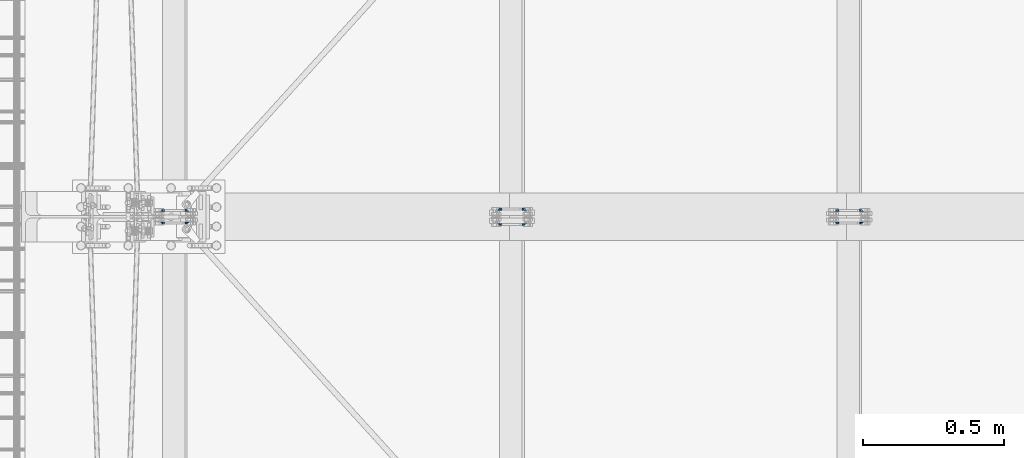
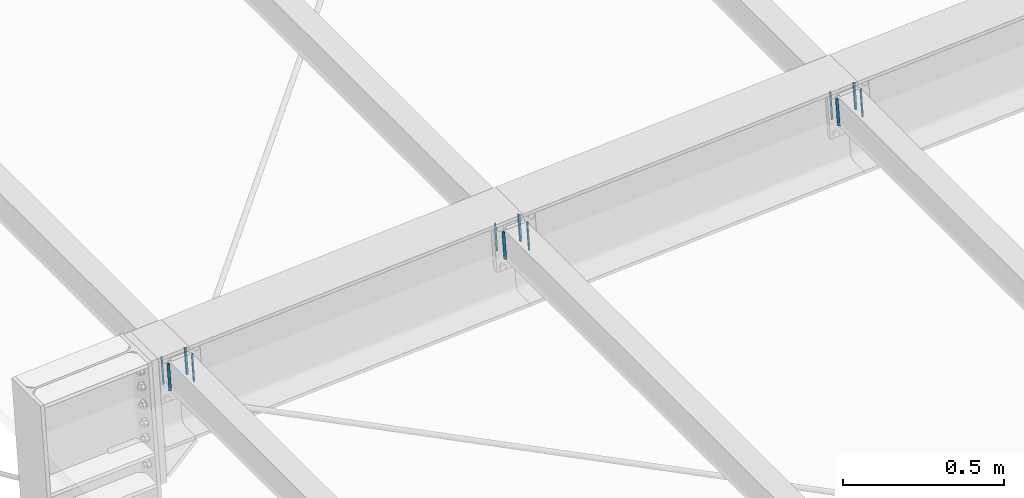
# One storey, part 14 of 72: 24 fasteners.
"""IFC4 building model written with IfcOpenShell, lengths in metres."""

from ifc_helpers import new_model, si_unit, frame, origin_with_axes, place, context, project, spatial, polyline, outline, extrude, type_object, element, save


model = new_model("IFC4")

# Units and contexts
model_context = context("Model", 3, precision=1e-05, world=origin_with_axes())
ifc_project = project(units=[si_unit("LENGTHUNIT", "METRE"), si_unit("AREAUNIT", "SQUARE_METRE"), si_unit("VOLUMEUNIT", "CUBIC_METRE"), si_unit("MASSUNIT", "GRAM", prefix="KILO"), si_unit("TIMEUNIT", "SECOND"), si_unit("PLANEANGLEUNIT", "RADIAN"), si_unit("SOLIDANGLEUNIT", "STERADIAN"), si_unit("THERMODYNAMICTEMPERATUREUNIT", "DEGREE_CELSIUS")], contexts=[model_context])

# Site, building, storey
placement_1 = place(None, origin_with_axes())
site = spatial("IfcSite", under=ifc_project, at=placement_1, Name="Italia", CompositionType="ELEMENT")
building = spatial("IfcBuilding", under=site, at=placement_1, Name="Pensilina", CompositionType="ELEMENT")
storey = spatial("IfcBuildingStorey", under=building, at=placement_1, Name="Storey 0", CompositionType="ELEMENT", Elevation=0.0)

# Fasteners
fastener_type_1 = type_object("IfcFastenerType", Name="Collegamento 0202_0201", PredefinedType="WELD")
placement_2 = place(placement_1, origin_with_axes())
fastener_1_placement = place(placement_2, origin_with_axes())
element("IfcFastener", 1, at=fastener_1_placement, inside=storey, type_object=fastener_type_1, Name="Collegamento 0202_0201", context=model_context, shape_type="SweptSolid", body=[
    extrude(outline(polyline([(0.0, 0.0, 0.0), (-0.00717354, 0.00695825, 0.0), (0.0, 0.00695825, 0.0), (0.0, 0.0, 0.0)])), frame((0.970676, 5.26105, 3.74635), z_axis=(0.067317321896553, 0.0, -0.997731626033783), x_axis=(0.0, 1.0, 0.0)), (0.0, 0.0, 1.0), 0.1061),
])
fastener_type_2 = type_object("IfcFastenerType", Name="Collegamento 0202_0201", PredefinedType="WELD")
fastener_2_placement = place(placement_2, origin_with_axes())
element("IfcFastener", 2, at=fastener_2_placement, inside=storey, type_object=fastener_type_2, Name="Collegamento 0202_0201", context=model_context, shape_type="SweptSolid", body=[
    extrude(outline(polyline([(0.0, 0.0, 0.0), (0.00717354, -0.00695825, 0.0), (0.0, -0.00695825, 0.0), (0.0, 0.0, 0.0)])), frame((1.07142, 5.26105, 3.64681), z_axis=(-0.067317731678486, 0.0, 0.997731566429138), x_axis=(0.0, -1.0, 0.0)), (0.0, 0.0, 1.0), 0.1061),
])
fastener_type_3 = type_object("IfcFastenerType", Name="Collegamento 0202_0201", PredefinedType="WELD")
fastener_3_placement = place(placement_2, origin_with_axes())
element("IfcFastener", 3, at=fastener_3_placement, inside=storey, type_object=fastener_type_3, Name="Collegamento 0202_0201", context=model_context, shape_type="SweptSolid", body=[
    extrude(outline(polyline([(0.0, 0.0, 0.0), (-0.00717354, 0.00695825, 0.0), (0.0, 0.00695825, 0.0), (0.0, 0.0, 0.0)])), frame((0.970676, 5.26105, 3.74635), z_axis=(0.067317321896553, 0.0, -0.997731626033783), x_axis=(0.0, 1.0, 0.0)), (0.0, 0.0, 1.0), 0.1061),
])
fastener_type_4 = type_object("IfcFastenerType", Name="Collegamento 0202_0201", PredefinedType="WELD")
fastener_4_placement = place(placement_2, origin_with_axes())
element("IfcFastener", 4, at=fastener_4_placement, inside=storey, type_object=fastener_type_4, Name="Collegamento 0202_0201", context=model_context, shape_type="SweptSolid", body=[
    extrude(outline(polyline([(0.0, 0.0, 0.0), (0.00717354, -0.00695825, 0.0), (0.0, -0.00695825, 0.0), (0.0, 0.0, 0.0)])), frame((1.07142, 5.26105, 3.64681), z_axis=(-0.067317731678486, 0.0, 0.997731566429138), x_axis=(0.0, -1.0, 0.0)), (0.0, 0.0, 1.0), 0.1061),
])
fastener_type_5 = type_object("IfcFastenerType", Name="Collegamento 0202_0203", PredefinedType="WELD")
fastener_5_placement = place(placement_2, origin_with_axes())
element("IfcFastener", 5, at=fastener_5_placement, inside=storey, type_object=fastener_type_5, Name="Collegamento 0202_0203", context=model_context, shape_type="SweptSolid", body=[
    extrude(outline(polyline([(0.0, 0.0, 0.0), (-0.00717354, 0.00695825, 0.0), (0.0, 0.00695825, 0.0), (0.0, 0.0, 0.0)])), frame((0.977819, 5.29895, 3.64049), z_axis=(-0.067317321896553, 0.0, 0.997731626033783), x_axis=(0.0, -1.0, 0.0)), (0.0, 0.0, 1.0), 0.1061),
])
fastener_type_6 = type_object("IfcFastenerType", Name="Collegamento 0202_0203", PredefinedType="WELD")
fastener_6_placement = place(placement_2, origin_with_axes())
element("IfcFastener", 6, at=fastener_6_placement, inside=storey, type_object=fastener_type_6, Name="Collegamento 0202_0203", context=model_context, shape_type="SweptSolid", body=[
    extrude(outline(polyline([(0.0, 0.0, 0.0), (0.00717354, -0.00695825, 0.0), (0.0, -0.00695825, 0.0), (0.0, 0.0, 0.0)])), frame((1.06428, 5.29895, 3.75267), z_axis=(0.067317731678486, 0.0, -0.997731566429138), x_axis=(0.0, 1.0, 0.0)), (0.0, 0.0, 1.0), 0.1061),
])
fastener_type_7 = type_object("IfcFastenerType", Name="Collegamento 0202_0203", PredefinedType="WELD")
fastener_7_placement = place(placement_2, origin_with_axes())
element("IfcFastener", 7, at=fastener_7_placement, inside=storey, type_object=fastener_type_7, Name="Collegamento 0202_0203", context=model_context, shape_type="SweptSolid", body=[
    extrude(outline(polyline([(0.0, 0.0, 0.0), (-0.00717354, 0.00695825, 0.0), (0.0, 0.00695825, 0.0), (0.0, 0.0, 0.0)])), frame((0.977819, 5.29895, 3.64049), z_axis=(-0.067317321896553, 0.0, 0.997731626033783), x_axis=(0.0, -1.0, 0.0)), (0.0, 0.0, 1.0), 0.1061),
])
fastener_type_8 = type_object("IfcFastenerType", Name="Collegamento 0202_0203", PredefinedType="WELD")
fastener_8_placement = place(placement_2, origin_with_axes())
element("IfcFastener", 8, at=fastener_8_placement, inside=storey, type_object=fastener_type_8, Name="Collegamento 0202_0203", context=model_context, shape_type="SweptSolid", body=[
    extrude(outline(polyline([(0.0, 0.0, 0.0), (0.00717354, -0.00695825, 0.0), (0.0, -0.00695825, 0.0), (0.0, 0.0, 0.0)])), frame((1.06428, 5.29895, 3.75267), z_axis=(0.067317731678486, 0.0, -0.997731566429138), x_axis=(0.0, 1.0, 0.0)), (0.0, 0.0, 1.0), 0.1061),
])
fastener_type_9 = type_object("IfcFastenerType", Name="Collegamento 0302_0301", PredefinedType="WELD")
fastener_9_placement = place(placement_2, origin_with_axes())
element("IfcFastener", 9, at=fastener_9_placement, inside=storey, type_object=fastener_type_9, Name="Collegamento 0302_0301", context=model_context, shape_type="SweptSolid", body=[
    extrude(outline(polyline([(0.0, 0.0, 0.0), (-0.00717354, 0.00695825, 0.0), (0.0, 0.00695825, 0.0), (0.0, 0.0, 0.0)])), frame((2.1679, 5.25605, 3.8286), z_axis=(0.067318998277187, 0.0, -0.997731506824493), x_axis=(0.0, 1.0, 0.0)), (0.0, 0.0, 1.0), 0.1061),
])
fastener_type_10 = type_object("IfcFastenerType", Name="Collegamento 0302_0301", PredefinedType="WELD")
fastener_10_placement = place(placement_2, origin_with_axes())
element("IfcFastener", 10, at=fastener_10_placement, inside=storey, type_object=fastener_type_10, Name="Collegamento 0302_0301", context=model_context, shape_type="SweptSolid", body=[
    extrude(outline(polyline([(0.0, 0.0, 0.0), (0.00717354, -0.00695825, 0.0), (0.0, -0.00695825, 0.0), (0.0, 0.0, 0.0)])), frame((2.26864, 5.25605, 3.72906), z_axis=(-0.067318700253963, 0.0, 0.997731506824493), x_axis=(0.0, -1.0, 0.0)), (0.0, 0.0, 1.0), 0.1061),
])
fastener_type_11 = type_object("IfcFastenerType", Name="Collegamento 0302_0301", PredefinedType="WELD")
fastener_11_placement = place(placement_2, origin_with_axes())
element("IfcFastener", 11, at=fastener_11_placement, inside=storey, type_object=fastener_type_11, Name="Collegamento 0302_0301", context=model_context, shape_type="SweptSolid", body=[
    extrude(outline(polyline([(0.0, 0.0, 0.0), (-0.00717354, 0.00695825, 0.0), (0.0, 0.00695825, 0.0), (0.0, 0.0, 0.0)])), frame((2.1679, 5.25605, 3.8286), z_axis=(0.067318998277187, 0.0, -0.997731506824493), x_axis=(0.0, 1.0, 0.0)), (0.0, 0.0, 1.0), 0.1061),
])
fastener_type_12 = type_object("IfcFastenerType", Name="Collegamento 0302_0301", PredefinedType="WELD")
fastener_12_placement = place(placement_2, origin_with_axes())
element("IfcFastener", 12, at=fastener_12_placement, inside=storey, type_object=fastener_type_12, Name="Collegamento 0302_0301", context=model_context, shape_type="SweptSolid", body=[
    extrude(outline(polyline([(0.0, 0.0, 0.0), (0.00717354, -0.00695825, 0.0), (0.0, -0.00695825, 0.0), (0.0, 0.0, 0.0)])), frame((2.26864, 5.25605, 3.72906), z_axis=(-0.067318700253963, 0.0, 0.997731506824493), x_axis=(0.0, -1.0, 0.0)), (0.0, 0.0, 1.0), 0.1061),
])
fastener_type_13 = type_object("IfcFastenerType", Name="Collegamento 0302_0303", PredefinedType="WELD")
fastener_13_placement = place(placement_2, origin_with_axes())
element("IfcFastener", 13, at=fastener_13_placement, inside=storey, type_object=fastener_type_13, Name="Collegamento 0302_0303", context=model_context, shape_type="SweptSolid", body=[
    extrude(outline(polyline([(0.0, 0.0, 0.0), (-0.00717354, 0.00695848, 0.0), (0.0, 0.00695848, 0.0), (0.0, 0.0, 0.0)])), frame((2.17504, 5.30395, 3.72274), z_axis=(-0.067318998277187, 0.0, 0.997731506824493), x_axis=(0.0, -1.0, 0.0)), (0.0, 0.0, 1.0), 0.1061),
])
fastener_type_14 = type_object("IfcFastenerType", Name="Collegamento 0302_0303", PredefinedType="WELD")
fastener_14_placement = place(placement_2, origin_with_axes())
element("IfcFastener", 14, at=fastener_14_placement, inside=storey, type_object=fastener_type_14, Name="Collegamento 0302_0303", context=model_context, shape_type="SweptSolid", body=[
    extrude(outline(polyline([(0.0, 0.0, 0.0), (0.00717354, -0.00695825, 0.0), (0.0, -0.00695825, 0.0), (0.0, 0.0, 0.0)])), frame((2.2615, 5.30395, 3.83492), z_axis=(0.067318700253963, 0.0, -0.997731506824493), x_axis=(0.0, 1.0, 0.0)), (0.0, 0.0, 1.0), 0.1061),
])
fastener_type_15 = type_object("IfcFastenerType", Name="Collegamento 0302_0303", PredefinedType="WELD")
fastener_15_placement = place(placement_2, origin_with_axes())
element("IfcFastener", 15, at=fastener_15_placement, inside=storey, type_object=fastener_type_15, Name="Collegamento 0302_0303", context=model_context, shape_type="SweptSolid", body=[
    extrude(outline(polyline([(0.0, 0.0, 0.0), (-0.00717354, 0.00695848, 0.0), (0.0, 0.00695848, 0.0), (0.0, 0.0, 0.0)])), frame((2.17504, 5.30395, 3.72274), z_axis=(-0.067318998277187, 0.0, 0.997731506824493), x_axis=(0.0, -1.0, 0.0)), (0.0, 0.0, 1.0), 0.1061),
])
fastener_type_16 = type_object("IfcFastenerType", Name="Collegamento 0302_0303", PredefinedType="WELD")
fastener_16_placement = place(placement_2, origin_with_axes())
element("IfcFastener", 16, at=fastener_16_placement, inside=storey, type_object=fastener_type_16, Name="Collegamento 0302_0303", context=model_context, shape_type="SweptSolid", body=[
    extrude(outline(polyline([(0.0, 0.0, 0.0), (0.00717354, -0.00695825, 0.0), (0.0, -0.00695825, 0.0), (0.0, 0.0, 0.0)])), frame((2.2615, 5.30395, 3.83492), z_axis=(0.067318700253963, 0.0, -0.997731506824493), x_axis=(0.0, 1.0, 0.0)), (0.0, 0.0, 1.0), 0.1061),
])
fastener_type_17 = type_object("IfcFastenerType", Name="Collegamento 0402_0401", PredefinedType="WELD")
fastener_17_placement = place(placement_2, origin_with_axes())
element("IfcFastener", 17, at=fastener_17_placement, inside=storey, type_object=fastener_type_17, Name="Collegamento 0402_0401", context=model_context, shape_type="SweptSolid", body=[
    extrude(outline(polyline([(0.0, 0.0, 0.0), (-0.00717354, 0.00695825, 0.0), (0.0, 0.00695825, 0.0), (0.0, 0.0, 0.0)])), frame((3.36503, 5.26105, 3.91085), z_axis=(0.067318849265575, 0.0, -0.997731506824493), x_axis=(0.0, 1.0, 0.0)), (0.0, 0.0, 1.0), 0.1061),
])
fastener_type_18 = type_object("IfcFastenerType", Name="Collegamento 0402_0401", PredefinedType="WELD")
fastener_18_placement = place(placement_2, origin_with_axes())
element("IfcFastener", 18, at=fastener_18_placement, inside=storey, type_object=fastener_type_18, Name="Collegamento 0402_0401", context=model_context, shape_type="SweptSolid", body=[
    extrude(outline(polyline([(0.0, 0.0, 0.0), (0.00717354, -0.00695801, 0.0), (0.0, -0.00695801, 0.0), (0.0, 0.0, 0.0)])), frame((3.46577, 5.26105, 3.8113), z_axis=(-0.067318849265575, 0.0, 0.997731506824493), x_axis=(0.0, -1.0, 0.0)), (0.0, 0.0, 1.0), 0.1061),
])
fastener_type_19 = type_object("IfcFastenerType", Name="Collegamento 0402_0401", PredefinedType="WELD")
fastener_19_placement = place(placement_2, origin_with_axes())
element("IfcFastener", 19, at=fastener_19_placement, inside=storey, type_object=fastener_type_19, Name="Collegamento 0402_0401", context=model_context, shape_type="SweptSolid", body=[
    extrude(outline(polyline([(0.0, 0.0, 0.0), (-0.00717354, 0.00695825, 0.0), (0.0, 0.00695825, 0.0), (0.0, 0.0, 0.0)])), frame((3.36503, 5.26105, 3.91085), z_axis=(0.067318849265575, 0.0, -0.997731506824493), x_axis=(0.0, 1.0, 0.0)), (0.0, 0.0, 1.0), 0.1061),
])
fastener_type_20 = type_object("IfcFastenerType", Name="Collegamento 0402_0401", PredefinedType="WELD")
fastener_20_placement = place(placement_2, origin_with_axes())
element("IfcFastener", 20, at=fastener_20_placement, inside=storey, type_object=fastener_type_20, Name="Collegamento 0402_0401", context=model_context, shape_type="SweptSolid", body=[
    extrude(outline(polyline([(0.0, 0.0, 0.0), (0.00717354, -0.00695801, 0.0), (0.0, -0.00695801, 0.0), (0.0, 0.0, 0.0)])), frame((3.46577, 5.26105, 3.8113), z_axis=(-0.067318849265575, 0.0, 0.997731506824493), x_axis=(0.0, -1.0, 0.0)), (0.0, 0.0, 1.0), 0.1061),
])
fastener_type_21 = type_object("IfcFastenerType", Name="Collegamento 0402_0403", PredefinedType="WELD")
fastener_21_placement = place(placement_2, origin_with_axes())
element("IfcFastener", 21, at=fastener_21_placement, inside=storey, type_object=fastener_type_21, Name="Collegamento 0402_0403", context=model_context, shape_type="SweptSolid", body=[
    extrude(outline(polyline([(0.0, 0.0, 0.0), (-0.00717354, 0.00695825, 0.0), (0.0, 0.00695825, 0.0), (0.0, 0.0, 0.0)])), frame((3.37217, 5.29895, 3.80499), z_axis=(-0.067318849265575, 0.0, 0.997731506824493), x_axis=(0.0, -1.0, 0.0)), (0.0, 0.0, 1.0), 0.1061),
])
fastener_type_22 = type_object("IfcFastenerType", Name="Collegamento 0402_0403", PredefinedType="WELD")
fastener_22_placement = place(placement_2, origin_with_axes())
element("IfcFastener", 22, at=fastener_22_placement, inside=storey, type_object=fastener_type_22, Name="Collegamento 0402_0403", context=model_context, shape_type="SweptSolid", body=[
    extrude(outline(polyline([(0.0, 0.0, 0.0), (0.00717354, -0.00695848, 0.0), (0.0, -0.00695848, 0.0), (0.0, 0.0, 0.0)])), frame((3.45863, 5.29895, 3.91716), z_axis=(0.067318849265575, 0.0, -0.997731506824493), x_axis=(0.0, 1.0, 0.0)), (0.0, 0.0, 1.0), 0.1061),
])
fastener_type_23 = type_object("IfcFastenerType", Name="Collegamento 0402_0403", PredefinedType="WELD")
fastener_23_placement = place(placement_2, origin_with_axes())
element("IfcFastener", 23, at=fastener_23_placement, inside=storey, type_object=fastener_type_23, Name="Collegamento 0402_0403", context=model_context, shape_type="SweptSolid", body=[
    extrude(outline(polyline([(0.0, 0.0, 0.0), (-0.00717354, 0.00695825, 0.0), (0.0, 0.00695825, 0.0), (0.0, 0.0, 0.0)])), frame((3.37217, 5.29895, 3.80499), z_axis=(-0.067318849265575, 0.0, 0.997731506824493), x_axis=(0.0, -1.0, 0.0)), (0.0, 0.0, 1.0), 0.1061),
])
fastener_type_24 = type_object("IfcFastenerType", Name="Collegamento 0402_0403", PredefinedType="WELD")
fastener_24_placement = place(placement_2, origin_with_axes())
element("IfcFastener", 24, at=fastener_24_placement, inside=storey, type_object=fastener_type_24, Name="Collegamento 0402_0403", context=model_context, shape_type="SweptSolid", body=[
    extrude(outline(polyline([(0.0, 0.0, 0.0), (0.00717354, -0.00695848, 0.0), (0.0, -0.00695848, 0.0), (0.0, 0.0, 0.0)])), frame((3.45863, 5.29895, 3.91716), z_axis=(0.067318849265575, 0.0, -0.997731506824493), x_axis=(0.0, 1.0, 0.0)), (0.0, 0.0, 1.0), 0.1061),
])

save(model, "model.ifc")
